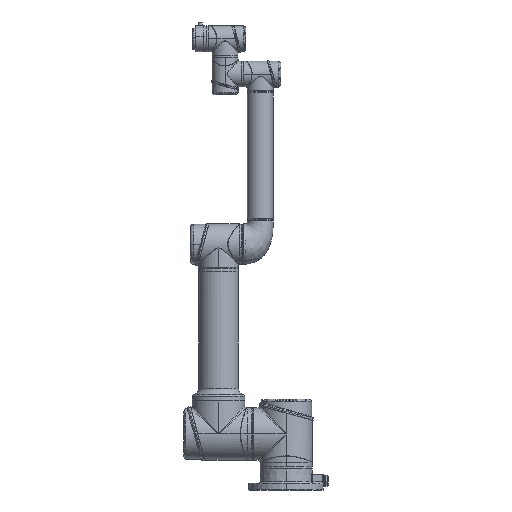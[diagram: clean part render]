
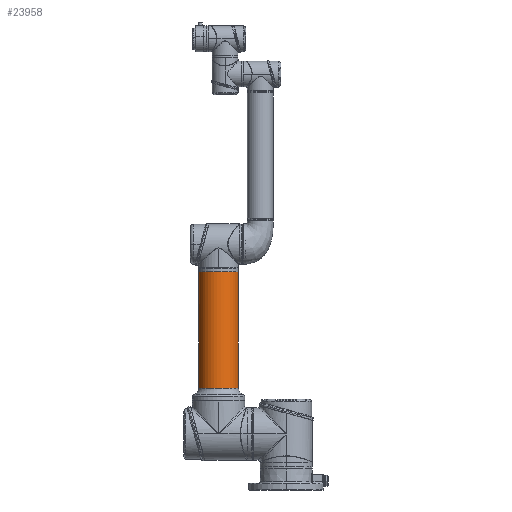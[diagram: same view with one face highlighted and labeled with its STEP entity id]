
A CAD part, front view. The second image highlights one B-rep face of the part: STEP entity #23958.
In plain terms, the highlighted cylindrical face has radius 58 mm (diameter 116 mm), a partial arc.
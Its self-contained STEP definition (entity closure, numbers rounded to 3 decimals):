
#1305 = VERTEX_POINT ( 'NONE', #70388 ) ;
#2441 = DIRECTION ( 'NONE',  ( 0., 0., 1. ) ) ;
#3206 = CARTESIAN_POINT ( 'NONE',  ( -58., 0., 403. ) ) ;
#3261 = AXIS2_PLACEMENT_3D ( 'NONE', #12754, #50577, #18202 ) ;
#3439 = DIRECTION ( 'NONE',  ( 0., 0., -1. ) ) ;
#5778 = CYLINDRICAL_SURFACE ( 'NONE', #45656, 58. ) ;
#5911 = CARTESIAN_POINT ( 'NONE',  ( 58., 0., 18. ) ) ;
#12754 = CARTESIAN_POINT ( 'NONE',  ( 0., 0., 18. ) ) ;
#12831 = LINE ( 'NONE', #42077, #39891 ) ;
#14230 = ORIENTED_EDGE ( 'NONE', *, *, #43406, .F. ) ;
#15173 = DIRECTION ( 'NONE',  ( 0., 0., -1. ) ) ;
#15295 = CARTESIAN_POINT ( 'NONE',  ( -56.967, 10.896, 18. ) ) ;
#15488 = EDGE_CURVE ( 'NONE', #46828, #25871, #22789, .T. ) ;
#16791 = EDGE_LOOP ( 'NONE', ( #14230, #61525, #44522, #48506, #56690 ) ) ;
#18202 = DIRECTION ( 'NONE',  ( 1., 0., 0. ) ) ;
#21895 = FACE_OUTER_BOUND ( 'NONE', #16791, .T. ) ;
#22789 = LINE ( 'NONE', #3206, #35442 ) ;
#23113 = AXIS2_PLACEMENT_3D ( 'NONE', #61430, #28988, #66931 ) ;
#23480 = AXIS2_PLACEMENT_3D ( 'NONE', #34859, #2441, #40324 ) ;
#23958 = ADVANCED_FACE ( 'NONE', ( #21895 ), #5778, .T. ) ;
#25871 = VERTEX_POINT ( 'NONE', #56666 ) ;
#28988 = DIRECTION ( 'NONE',  ( 0., 0., 1. ) ) ;
#29137 = DIRECTION ( 'NONE',  ( -1., 0., 0. ) ) ;
#32418 = EDGE_CURVE ( 'NONE', #1305, #56255, #12831, .T. ) ;
#34577 = DIRECTION ( 'NONE',  ( 0., 0., -1. ) ) ;
#34859 = CARTESIAN_POINT ( 'NONE',  ( 0., 0., 356.762 ) ) ;
#35442 = VECTOR ( 'NONE', #3439, 1000. ) ;
#35786 = EDGE_CURVE ( 'NONE', #56255, #50887, #56241, .T. ) ;
#38893 = EDGE_CURVE ( 'NONE', #50887, #25871, #43106, .T. ) ;
#39891 = VECTOR ( 'NONE', #15173, 1000. ) ;
#40324 = DIRECTION ( 'NONE',  ( 1., 0., 0. ) ) ;
#42077 = CARTESIAN_POINT ( 'NONE',  ( 58., 0., 403. ) ) ;
#43106 = CIRCLE ( 'NONE', #3261, 58. ) ;
#43406 = EDGE_CURVE ( 'NONE', #1305, #46828, #57291, .T. ) ;
#44230 = CARTESIAN_POINT ( 'NONE',  ( -58., 0., 356.762 ) ) ;
#44522 = ORIENTED_EDGE ( 'NONE', *, *, #35786, .T. ) ;
#45656 = AXIS2_PLACEMENT_3D ( 'NONE', #56144, #34577, #29137 ) ;
#46828 = VERTEX_POINT ( 'NONE', #44230 ) ;
#48506 = ORIENTED_EDGE ( 'NONE', *, *, #38893, .T. ) ;
#50577 = DIRECTION ( 'NONE',  ( 0., 0., 1. ) ) ;
#50887 = VERTEX_POINT ( 'NONE', #15295 ) ;
#56144 = CARTESIAN_POINT ( 'NONE',  ( 0., 0., 403. ) ) ;
#56241 = CIRCLE ( 'NONE', #23113, 58. ) ;
#56255 = VERTEX_POINT ( 'NONE', #5911 ) ;
#56666 = CARTESIAN_POINT ( 'NONE',  ( -58., 0., 18. ) ) ;
#56690 = ORIENTED_EDGE ( 'NONE', *, *, #15488, .F. ) ;
#57291 = CIRCLE ( 'NONE', #23480, 58. ) ;
#61430 = CARTESIAN_POINT ( 'NONE',  ( 0., 0., 18. ) ) ;
#61525 = ORIENTED_EDGE ( 'NONE', *, *, #32418, .T. ) ;
#66931 = DIRECTION ( 'NONE',  ( 1., 0., 0. ) ) ;
#70388 = CARTESIAN_POINT ( 'NONE',  ( 58., 0., 356.762 ) ) ;
